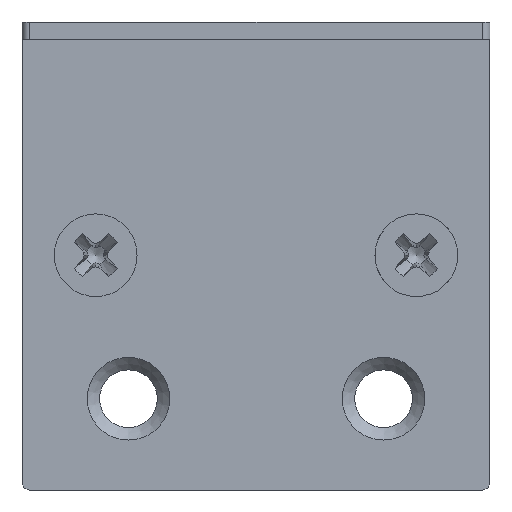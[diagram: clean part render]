
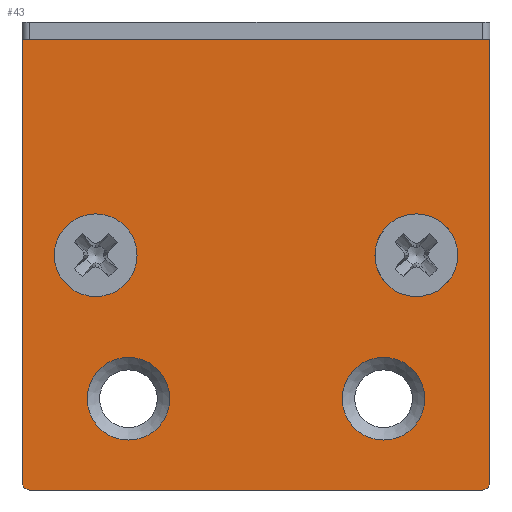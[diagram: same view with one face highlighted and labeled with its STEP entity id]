
A CAD part, left-side view. The second image highlights one B-rep face of the part: STEP entity #43.
In plain terms, the highlighted planar face has unit normal (-1, 0, 0).
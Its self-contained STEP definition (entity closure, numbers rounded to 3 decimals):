
#43 = ADVANCED_FACE('',(#44,#55,#107,#118,#129),#140,.F.);
#44 = FACE_BOUND('',#45,.F.);
#45 = EDGE_LOOP('',(#46));
#46 = ORIENTED_EDGE('',*,*,#47,.T.);
#47 = EDGE_CURVE('',#48,#48,#50,.T.);
#48 = VERTEX_POINT('',#49);
#49 = CARTESIAN_POINT('',(-2.72,61.775,-3.8));
#50 = CIRCLE('',#51,2.65);
#51 = AXIS2_PLACEMENT_3D('',#52,#53,#54);
#52 = CARTESIAN_POINT('',(-2.72,61.775,-1.15));
#53 = DIRECTION('',(-1.,-0.,0.));
#54 = DIRECTION('',(-0.,0.,-1.));
#55 = FACE_BOUND('',#56,.F.);
#56 = EDGE_LOOP('',(#57,#67,#76,#84,#93,#101));
#57 = ORIENTED_EDGE('',*,*,#58,.F.);
#58 = EDGE_CURVE('',#59,#61,#63,.T.);
#59 = VERTEX_POINT('',#60);
#60 = CARTESIAN_POINT('',(-2.72,38.6,-6.5));
#61 = VERTEX_POINT('',#62);
#62 = CARTESIAN_POINT('',(-2.72,38.6,21.9));
#63 = LINE('',#64,#65);
#64 = CARTESIAN_POINT('',(-2.72,38.6,-8.1));
#65 = VECTOR('',#66,1.);
#66 = DIRECTION('',(0.,0.,1.));
#67 = ORIENTED_EDGE('',*,*,#68,.T.);
#68 = EDGE_CURVE('',#59,#69,#71,.T.);
#69 = VERTEX_POINT('',#70);
#70 = CARTESIAN_POINT('',(-2.72,39.1,-7.));
#71 = CIRCLE('',#72,0.5);
#72 = AXIS2_PLACEMENT_3D('',#73,#74,#75);
#73 = CARTESIAN_POINT('',(-2.72,39.1,-6.5));
#74 = DIRECTION('',(1.,0.,-0.));
#75 = DIRECTION('',(0.,0.,1.));
#76 = ORIENTED_EDGE('',*,*,#77,.T.);
#77 = EDGE_CURVE('',#69,#78,#80,.T.);
#78 = VERTEX_POINT('',#79);
#79 = CARTESIAN_POINT('',(-2.72,68.1,-7.));
#80 = LINE('',#81,#82);
#81 = CARTESIAN_POINT('',(-2.72,38.6,-7.));
#82 = VECTOR('',#83,1.);
#83 = DIRECTION('',(0.,1.,0.));
#84 = ORIENTED_EDGE('',*,*,#85,.T.);
#85 = EDGE_CURVE('',#78,#86,#88,.T.);
#86 = VERTEX_POINT('',#87);
#87 = CARTESIAN_POINT('',(-2.72,68.6,-6.5));
#88 = CIRCLE('',#89,0.5);
#89 = AXIS2_PLACEMENT_3D('',#90,#91,#92);
#90 = CARTESIAN_POINT('',(-2.72,68.1,-6.5));
#91 = DIRECTION('',(1.,0.,-0.));
#92 = DIRECTION('',(0.,0.,1.));
#93 = ORIENTED_EDGE('',*,*,#94,.T.);
#94 = EDGE_CURVE('',#86,#95,#97,.T.);
#95 = VERTEX_POINT('',#96);
#96 = CARTESIAN_POINT('',(-2.72,68.6,21.9));
#97 = LINE('',#98,#99);
#98 = CARTESIAN_POINT('',(-2.72,68.6,-8.1));
#99 = VECTOR('',#100,1.);
#100 = DIRECTION('',(0.,0.,1.));
#101 = ORIENTED_EDGE('',*,*,#102,.F.);
#102 = EDGE_CURVE('',#61,#95,#103,.T.);
#103 = LINE('',#104,#105);
#104 = CARTESIAN_POINT('',(-2.72,38.6,21.9));
#105 = VECTOR('',#106,1.);
#106 = DIRECTION('',(0.,1.,0.));
#107 = FACE_BOUND('',#108,.F.);
#108 = EDGE_LOOP('',(#109));
#109 = ORIENTED_EDGE('',*,*,#110,.T.);
#110 = EDGE_CURVE('',#111,#111,#113,.T.);
#111 = VERTEX_POINT('',#112);
#112 = CARTESIAN_POINT('',(-2.72,63.875,5.4));
#113 = CIRCLE('',#114,2.65);
#114 = AXIS2_PLACEMENT_3D('',#115,#116,#117);
#115 = CARTESIAN_POINT('',(-2.72,63.875,8.05));
#116 = DIRECTION('',(-1.,-0.,0.));
#117 = DIRECTION('',(-0.,0.,-1.));
#118 = FACE_BOUND('',#119,.F.);
#119 = EDGE_LOOP('',(#120));
#120 = ORIENTED_EDGE('',*,*,#121,.T.);
#121 = EDGE_CURVE('',#122,#122,#124,.T.);
#122 = VERTEX_POINT('',#123);
#123 = CARTESIAN_POINT('',(-2.72,45.425,-3.8));
#124 = CIRCLE('',#125,2.65);
#125 = AXIS2_PLACEMENT_3D('',#126,#127,#128);
#126 = CARTESIAN_POINT('',(-2.72,45.425,-1.15));
#127 = DIRECTION('',(-1.,-0.,0.));
#128 = DIRECTION('',(-0.,0.,-1.));
#129 = FACE_BOUND('',#130,.F.);
#130 = EDGE_LOOP('',(#131));
#131 = ORIENTED_EDGE('',*,*,#132,.T.);
#132 = EDGE_CURVE('',#133,#133,#135,.T.);
#133 = VERTEX_POINT('',#134);
#134 = CARTESIAN_POINT('',(-2.72,43.325,5.4));
#135 = CIRCLE('',#136,2.65);
#136 = AXIS2_PLACEMENT_3D('',#137,#138,#139);
#137 = CARTESIAN_POINT('',(-2.72,43.325,8.05));
#138 = DIRECTION('',(-1.,-0.,0.));
#139 = DIRECTION('',(-0.,0.,-1.));
#140 = PLANE('',#141);
#141 = AXIS2_PLACEMENT_3D('',#142,#143,#144);
#142 = CARTESIAN_POINT('',(-2.72,38.6,-8.1));
#143 = DIRECTION('',(1.,0.,0.));
#144 = DIRECTION('',(0.,0.,1.));
